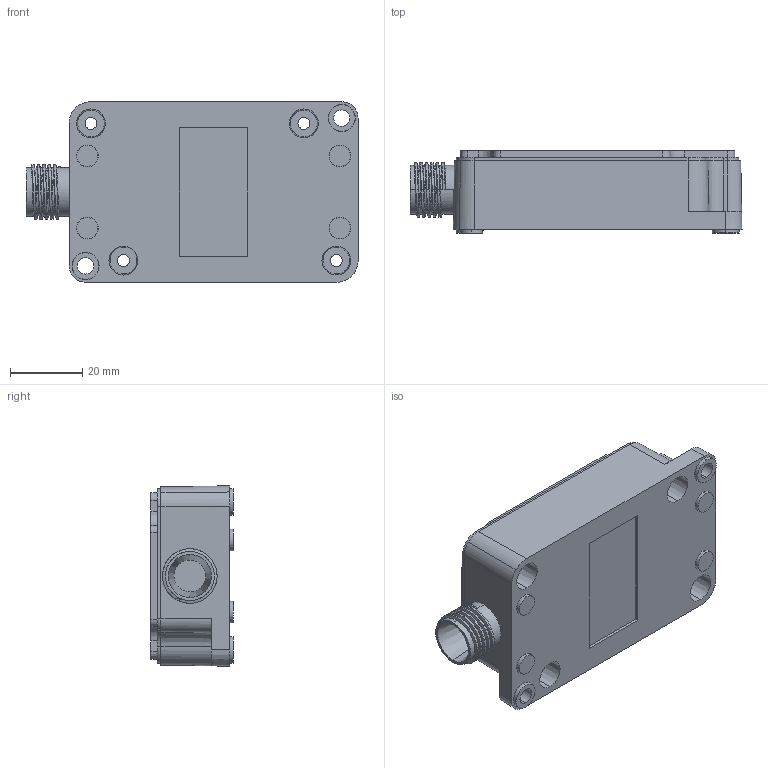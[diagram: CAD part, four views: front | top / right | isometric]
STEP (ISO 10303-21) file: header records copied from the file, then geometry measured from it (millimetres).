
FILE_DESCRIPTION (( 'STEP AP203' ), '1' );
FILE_NAME ('TB-204-C_body.STEP', '2018-11-01T05:22:01', ( '' ), ( '' ), 'SwSTEP 2.0', 'SolidWorks 2018', '' );
FILE_SCHEMA (( 'CONFIG_CONTROL_DESIGN' ));
Length unit declared in the file: millimetre
Products named in the file (1): TB-204-C_body
Bounding box: 92 x 22.8 x 50 mm (x, y, z)
Volume: 26390 mm3; surface area: 21767.3 mm2
Topology: 1 solids, 1 shells, 214 faces, 563 edges, 382 vertices
Faces by surface type: plane 77, cylinder 61, cone 58, bspline 18
Entity records: 8941 total; most frequent: CARTESIAN_POINT 3639, ORIENTED_EDGE 1126, DIRECTION 1037, EDGE_CURVE 563, AXIS2_PLACEMENT_3D 389, VERTEX_POINT 382, LINE 259, VECTOR 259
